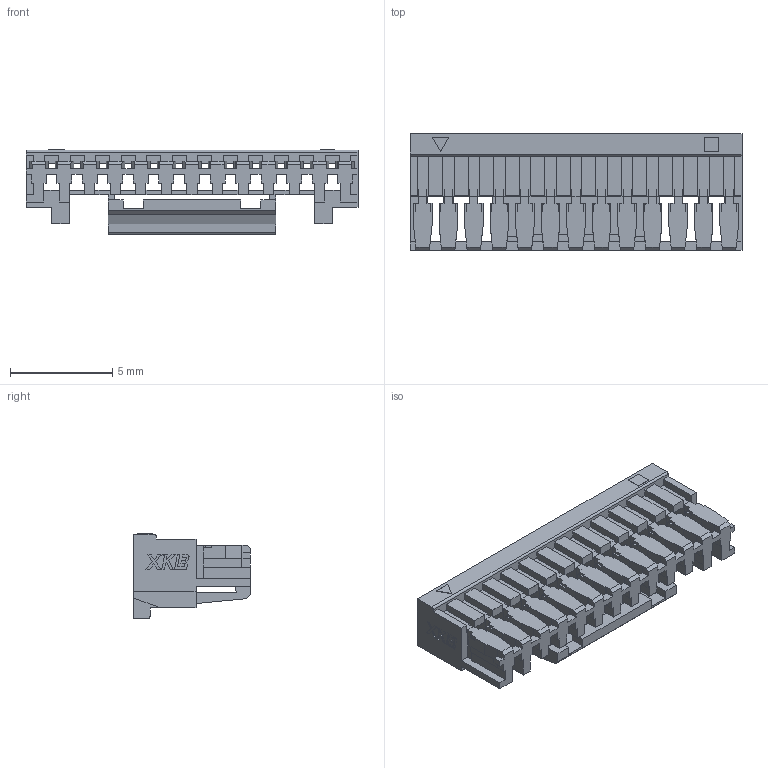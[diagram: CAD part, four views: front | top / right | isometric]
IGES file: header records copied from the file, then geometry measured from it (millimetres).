
Start section: SolidWorks IGES file using analytic representation for surfaces
Global section: file name: C:\Users\Administrator\Desktop\eRob 蟀諉ん\厙桴\GHR-12V-S(IO).IGS; native system: SolidWorks 2016; preprocessor: SolidWorks 2016; author: Administrator; date: 220221.160735; units: millimetre
Bounding box: 16.25 x 5.7 x 4.14 mm (x, y, z)
Surface area: 697 mm2 (no closed solid volume)
Topology: 0 solids, 0 shells, 776 faces, 4966 edges, 4966 vertices
Faces by surface type: bspline 742, revolution 34
